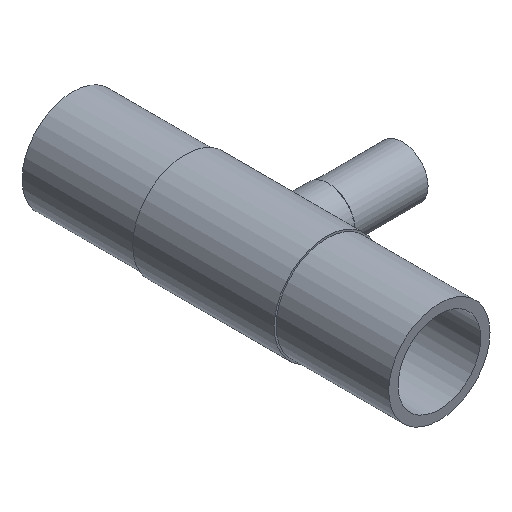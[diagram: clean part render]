
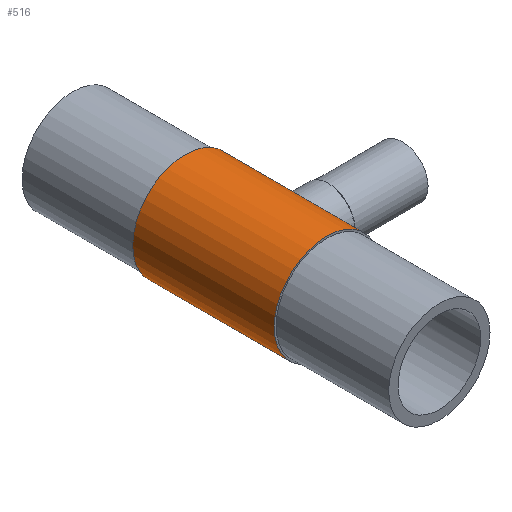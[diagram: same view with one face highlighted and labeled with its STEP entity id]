
A CAD part, isometric view. The second image highlights one B-rep face of the part: STEP entity #516.
In plain terms, the highlighted cylindrical face has radius 32.66 mm (diameter 65.32 mm), a full revolution.
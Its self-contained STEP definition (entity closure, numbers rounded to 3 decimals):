
#278=CARTESIAN_POINT('',(30.478,-11.738,-11.738));
#279=VERTEX_POINT('',#278);
#286=CARTESIAN_POINT('',(28.127,0.,16.6));
#287=VERTEX_POINT('',#286);
#288=CARTESIAN_POINT('',(28.127,0.,16.6));
#289=CARTESIAN_POINT('',(28.127,0.533,16.6));
#290=CARTESIAN_POINT('',(28.142,1.073,16.574));
#291=CARTESIAN_POINT('',(28.204,2.157,16.468));
#292=CARTESIAN_POINT('',(28.251,2.7,16.388));
#293=CARTESIAN_POINT('',(28.437,4.321,16.066));
#294=CARTESIAN_POINT('',(28.621,5.389,15.74));
#295=CARTESIAN_POINT('',(29.074,7.426,14.888));
#296=CARTESIAN_POINT('',(29.341,8.397,14.36));
#297=CARTESIAN_POINT('',(29.903,10.189,13.149));
#298=CARTESIAN_POINT('',(30.198,11.011,12.465));
#299=CARTESIAN_POINT('',(30.757,12.463,11.013));
#300=CARTESIAN_POINT('',(31.043,13.147,10.193));
#301=CARTESIAN_POINT('',(31.575,14.359,8.4));
#302=CARTESIAN_POINT('',(31.821,14.887,7.427));
#303=CARTESIAN_POINT('',(32.229,15.741,5.387));
#304=CARTESIAN_POINT('',(32.392,16.066,4.318));
#305=CARTESIAN_POINT('',(32.607,16.496,2.156));
#306=CARTESIAN_POINT('',(32.66,16.6,1.063));
#307=CARTESIAN_POINT('',(32.66,16.6,-1.063));
#308=CARTESIAN_POINT('',(32.607,16.496,-2.156));
#309=CARTESIAN_POINT('',(32.392,16.066,-4.318));
#310=CARTESIAN_POINT('',(32.229,15.741,-5.387));
#311=CARTESIAN_POINT('',(31.821,14.887,-7.427));
#312=CARTESIAN_POINT('',(31.575,14.359,-8.4));
#313=CARTESIAN_POINT('',(31.043,13.147,-10.193));
#314=CARTESIAN_POINT('',(30.757,12.463,-11.013));
#315=CARTESIAN_POINT('',(30.198,11.011,-12.465));
#316=CARTESIAN_POINT('',(29.903,10.189,-13.149));
#317=CARTESIAN_POINT('',(29.341,8.397,-14.36));
#318=CARTESIAN_POINT('',(29.074,7.426,-14.888));
#319=CARTESIAN_POINT('',(28.621,5.389,-15.74));
#320=CARTESIAN_POINT('',(28.437,4.321,-16.066));
#321=CARTESIAN_POINT('',(28.251,2.7,-16.388));
#322=CARTESIAN_POINT('',(28.204,2.157,-16.468));
#323=CARTESIAN_POINT('',(28.142,1.073,-16.574));
#324=CARTESIAN_POINT('',(28.127,0.533,-16.6));
#325=CARTESIAN_POINT('',(28.127,-0.533,-16.6));
#326=CARTESIAN_POINT('',(28.142,-1.073,-16.574));
#327=CARTESIAN_POINT('',(28.204,-2.157,-16.468));
#328=CARTESIAN_POINT('',(28.251,-2.7,-16.388));
#329=CARTESIAN_POINT('',(28.437,-4.321,-16.066));
#330=CARTESIAN_POINT('',(28.621,-5.389,-15.74));
#331=CARTESIAN_POINT('',(29.074,-7.426,-14.888));
#332=CARTESIAN_POINT('',(29.341,-8.397,-14.36));
#333=CARTESIAN_POINT('',(29.903,-10.189,-13.149));
#334=CARTESIAN_POINT('',(30.198,-11.011,-12.465));
#335=CARTESIAN_POINT('',(30.757,-12.463,-11.013));
#336=CARTESIAN_POINT('',(31.043,-13.147,-10.193));
#337=CARTESIAN_POINT('',(31.575,-14.359,-8.4));
#338=CARTESIAN_POINT('',(31.821,-14.887,-7.427));
#339=CARTESIAN_POINT('',(32.229,-15.741,-5.387));
#340=CARTESIAN_POINT('',(32.392,-16.066,-4.318));
#341=CARTESIAN_POINT('',(32.607,-16.496,-2.156));
#342=CARTESIAN_POINT('',(32.66,-16.6,-1.063));
#343=CARTESIAN_POINT('',(32.66,-16.6,1.063));
#344=CARTESIAN_POINT('',(32.607,-16.496,2.156));
#345=CARTESIAN_POINT('',(32.392,-16.066,4.318));
#346=CARTESIAN_POINT('',(32.229,-15.741,5.387));
#347=CARTESIAN_POINT('',(31.821,-14.887,7.427));
#348=CARTESIAN_POINT('',(31.575,-14.359,8.4));
#349=CARTESIAN_POINT('',(31.043,-13.147,10.193));
#350=CARTESIAN_POINT('',(30.757,-12.463,11.013));
#351=CARTESIAN_POINT('',(30.198,-11.011,12.465));
#352=CARTESIAN_POINT('',(29.903,-10.189,13.149));
#353=CARTESIAN_POINT('',(29.341,-8.397,14.36));
#354=CARTESIAN_POINT('',(29.074,-7.426,14.888));
#355=CARTESIAN_POINT('',(28.621,-5.389,15.74));
#356=CARTESIAN_POINT('',(28.437,-4.321,16.066));
#357=CARTESIAN_POINT('',(28.251,-2.7,16.388));
#358=CARTESIAN_POINT('',(28.204,-2.157,16.468));
#359=CARTESIAN_POINT('',(28.142,-1.073,16.574));
#360=CARTESIAN_POINT('',(28.127,-0.533,16.6));
#361=CARTESIAN_POINT('',(28.127,0.,16.6));
#362=B_SPLINE_CURVE_WITH_KNOTS('',3,(#288,#289,#290,#291,#292,#293,#294,#295,#296,#297,#298,#299,#300,#301,#302,#303,#304,#305,#306,#307,#308,#309,#310,#311,#312,#313,#314,#315,#316,#317,#318,#319,#320,#321,#322,#323,#324,#325,#326,#327,#328,#329,#330,#331,#332,#333,#334,#335,#336,#337,#338,#339,#340,#341,#342,#343,#344,#345,#346,#347,#348,#349,#350,#351,#352,#353,#354,#355,#356,#357,#358,#359,#360,#361),.UNSPECIFIED.,.T.,.F.,(4,2,2,2,2,2,2,2,2,2,2,2,2,2,2,2,2,2,2,2,2,2,2,2,2,2,2,2,2,2,2,2,2,2,2,2,4),(0.,1.599,3.198,6.395,9.593,12.79,15.979,19.167,22.355,25.543,28.732,31.92,35.108,38.296,41.494,44.691,47.889,49.488,51.087,52.685,54.284,57.482,60.679,63.877,67.065,70.253,73.442,76.63,79.818,83.006,86.195,89.383,92.58,95.778,98.976,100.574,102.173),.UNSPECIFIED.);
#363=EDGE_CURVE('',#287,#279,#362,.T.);
#365=EDGE_CURVE('',#279,#287,#362,.T.);
#468=CARTESIAN_POINT('',(-32.66,44.,0.));
#469=VERTEX_POINT('',#468);
#470=CARTESIAN_POINT('',(0.,44.,0.));
#471=DIRECTION('',(0.,-1.,0.));
#472=DIRECTION('',(-1.,0.,0.));
#473=AXIS2_PLACEMENT_3D('',#470,#471,#472);
#474=CIRCLE('',#473,32.66);
#475=EDGE_CURVE('',#469,#469,#474,.T.);
#488=CARTESIAN_POINT('',(-32.66,-44.,0.));
#489=VERTEX_POINT('',#488);
#490=CARTESIAN_POINT('',(0.,-44.,0.));
#491=DIRECTION('',(0.,-1.,0.));
#492=DIRECTION('',(-1.,0.,0.));
#493=AXIS2_PLACEMENT_3D('',#490,#491,#492);
#494=CIRCLE('',#493,32.66);
#495=EDGE_CURVE('',#489,#489,#494,.T.);
#496=ORIENTED_EDGE('',*,*,#495,.F.);
#497=CARTESIAN_POINT('',(-32.66,0.,0.));
#498=DIRECTION('',(0.,-1.,0.));
#499=VECTOR('',#498,32.66);
#500=LINE('',#497,#499);
#501=EDGE_CURVE('',#469,#489,#500,.T.);
#502=ORIENTED_EDGE('',*,*,#501,.F.);
#503=ORIENTED_EDGE('',*,*,#475,.T.);
#504=ORIENTED_EDGE('',*,*,#501,.T.);
#505=EDGE_LOOP('',(#496,#502,#503,#504));
#506=FACE_OUTER_BOUND('',#505,.T.);
#507=ORIENTED_EDGE('',*,*,#363,.T.);
#508=ORIENTED_EDGE('',*,*,#365,.T.);
#509=EDGE_LOOP('',(#507,#508));
#510=FACE_BOUND('',#509,.T.);
#511=CARTESIAN_POINT('',(0.,0.,0.));
#512=DIRECTION('',(0.,-1.,0.));
#513=DIRECTION('',(-1.,0.,0.));
#514=AXIS2_PLACEMENT_3D('',#511,#512,#513);
#515=CYLINDRICAL_SURFACE('',#514,32.66);
#516=ADVANCED_FACE('',(#506,#510),#515,.T.);
